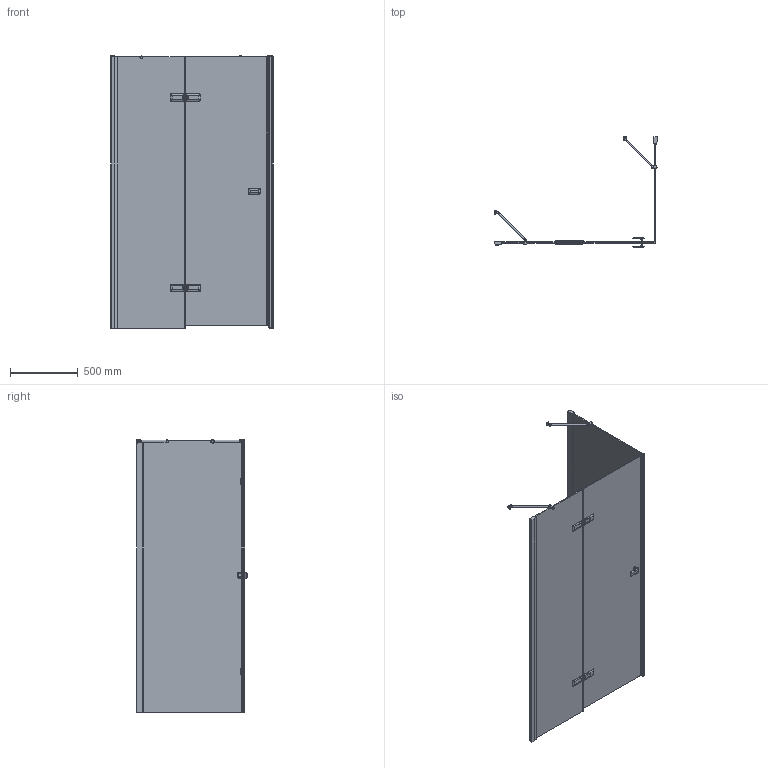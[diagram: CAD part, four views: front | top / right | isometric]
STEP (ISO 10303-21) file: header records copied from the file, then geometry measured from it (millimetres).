
FILE_DESCRIPTION(/* description */ (''),/* implementation_level */ '2;1');
FILE_NAME(/* name */ 'D:\8\TREND RECTAN GK-863PTWO\TREND RECTAN GK-863PTWO левая модель\TREND RECTAN GK-863PTWO ЛЕВАЯ-3D.stp',/* time_stamp */ '2020-07-24T21:26:05+03:00',/* author */ ('User'),/* organization */ (''),/* preprocessor_version */ 'ST-DEVELOPER v15.2',/* originating_system */ 'Autodesk Inventor 2014',/* authorisation */ '');
FILE_SCHEMA (('AUTOMOTIVE_DESIGN { 1 0 10303 214 3 1 1 }'));
Products named in the file (1): TREND RECTAN GK-863PTWO ЛЕВАЯ-3
D
Bounding box: 1193.94 x 812.64 x 2008.49 mm (x, y, z)
Volume: 32611062.8 mm3; surface area: 8272645.9 mm2
Topology: 5 solids, 5 shells, 1145 faces, 3116 edges, 1964 vertices
Faces by surface type: plane 641, cylinder 309, bspline 138, cone 26, torus 22, sphere 9
Full cylindrical faces by diameter (mm): 4 x2, 4.134 x2, 5 x4, 5.2 x2, 6 x2, 7.2 x4, 9 x8, 11 x2, 13 x2, 15 x2, 16 x2, 20 x4, 26 x2
Entity records: 52867 total; most frequent: CARTESIAN_POINT 23527, ORIENTED_EDGE 5974, DIRECTION 5667, EDGE_CURVE 2985, AXIS2_PLACEMENT_3D 1962, VERTEX_POINT 1936, LINE 1743, VECTOR 1743
